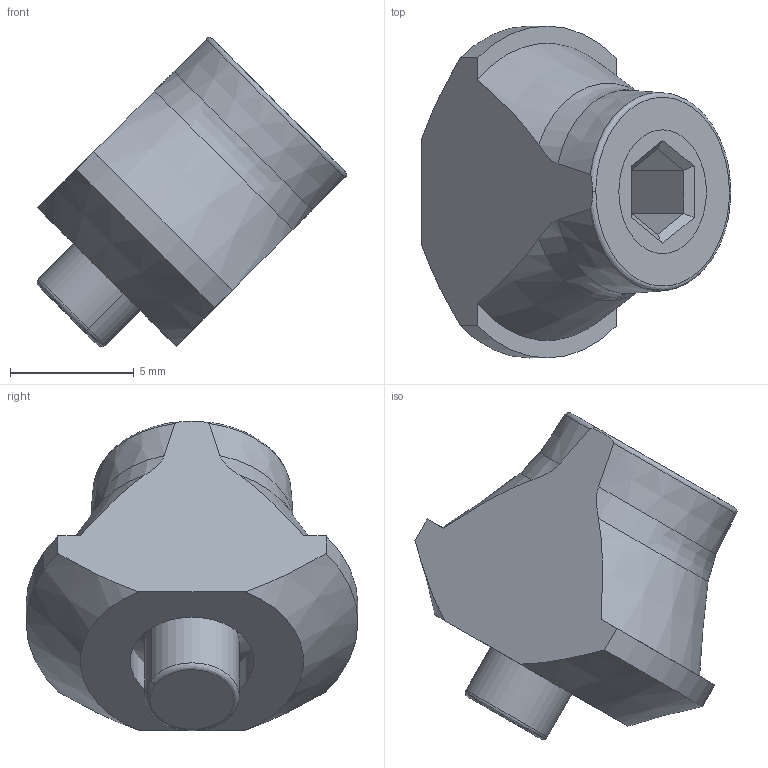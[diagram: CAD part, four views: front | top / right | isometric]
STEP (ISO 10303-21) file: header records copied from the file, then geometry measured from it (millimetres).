
FILE_DESCRIPTION (( 'STEP AP203' ), '1' );
FILE_NAME ('10380_POTE.STEP', '2018-05-04T08:59:25', ( '' ), ( '' ), 'SwSTEP 2.0', 'SolidWorks 2017', '' );
FILE_SCHEMA (( 'CONFIG_CONTROL_DESIGN' ));
Length unit declared in the file: millimetre
Products named in the file (3): fath_093090_2; 10380_POTE; fath_093090_1
Assembly tree (2 placements, depth 2):
  10380_POTE
    fath_093090_1
    fath_093090_2
Bounding box: 12.5 x 13.4 x 12.5 mm (x, y, z)
Volume: 748.2 mm3; surface area: 837.9 mm2
Topology: 2 solids, 2 shells, 45 faces, 110 edges, 70 vertices
Faces by surface type: plane 21, cone 10, cylinder 8, bspline 6
Entity records: 1901 total; most frequent: CARTESIAN_POINT 576, ORIENTED_EDGE 220, DIRECTION 210, EDGE_CURVE 110, AXIS2_PLACEMENT_3D 80, VERTEX_POINT 70, LINE 50, VECTOR 50
